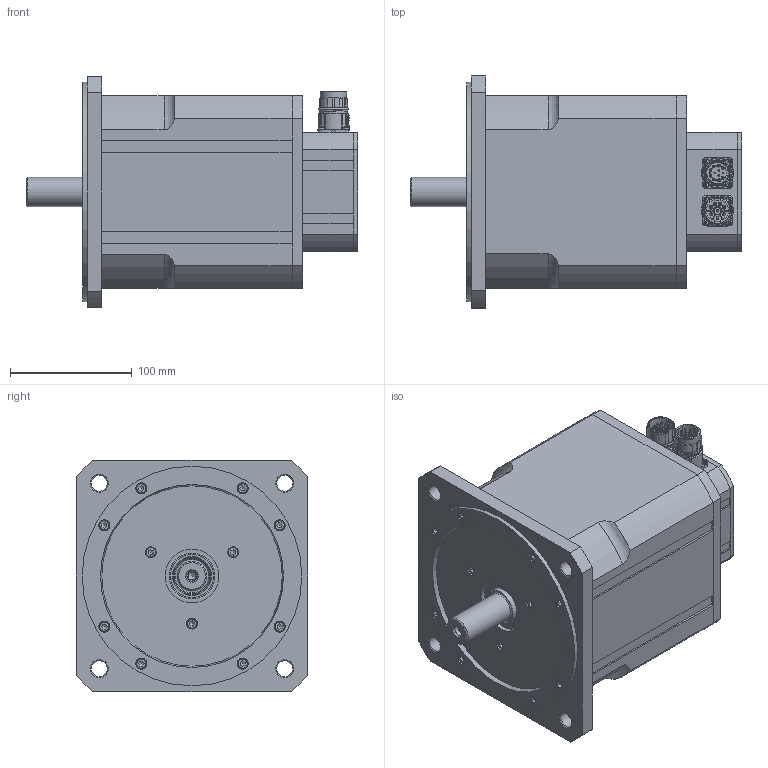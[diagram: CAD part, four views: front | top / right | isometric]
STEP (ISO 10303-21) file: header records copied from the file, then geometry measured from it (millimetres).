
FILE_DESCRIPTION(/* description */ (''),/* implementation_level */ '2;1');
FILE_NAME(/* name */ 'V:\6\N6025 00 B\3D Z\N6025 00 B Z_1800_8P_12P.stp',/* time_stamp */ '2017-06-28T11:56:23+02:00',/* author */ ('simik'),/* organization */ (''),/* preprocessor_version */ 'ST-DEVELOPER v16.13',/* originating_system */ 'Autodesk Inventor 2018',/* authorisation */ '');
FILE_SCHEMA (('AUTOMOTIVE_DESIGN { 1 0 10303 214 3 1 1 }'));
Products named in the file (5): N6025 00 B Z; N6025 00 B Z_front; N6025 00 B Z_1800; 127331; 127344
Assembly tree (4 placements, depth 2):
  N6025 00 B Z
    N6025 00 B Z_front
    N6025 00 B Z_1800
    127331
    127344
Bounding box: 272 x 190 x 190 mm (x, y, z)
Volume: 1853580.3 mm3; surface area: 390603 mm2
Topology: 7 solids, 38 shells, 2175 faces, 5223 edges, 3227 vertices
Faces by surface type: cylinder 862, plane 705, torus 209, cone 186, bspline 164, sphere 49
Full cylindrical faces by diameter (mm): 1 x16, 1.18 x12, 1.3 x4, 2 x4, 2.013 x8, 2.15 x4, 2.208 x8, 2.4 x8, 2.459 x10, 2.5 x8, 2.7 x8, 3 x4, 3.242 x5, 3.3 x4, 3.545 x4, 3.95 x4, 4 x4, 4.134 x16, 4.4 x4, 5 x27, 5.3 x19, 5.8 x1, 6.5 x4, 6.647 x1, 6.8 x1, 8 x4, 8.4 x1, 8.5 x23, 9 x19, 13 x4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
Entity records: 69536 total; most frequent: CARTESIAN_POINT 20280, DIRECTION 10167, ORIENTED_EDGE 9052, EDGE_CURVE 4434, AXIS2_PLACEMENT_3D 4356, VERTEX_POINT 2965, EDGE_LOOP 2903, ADVANCED_FACE 2171
